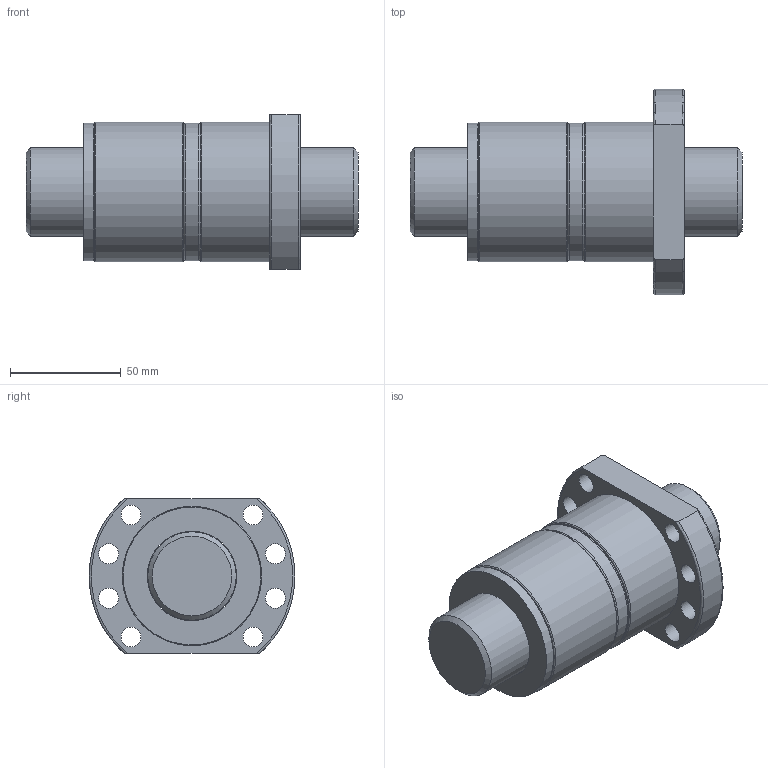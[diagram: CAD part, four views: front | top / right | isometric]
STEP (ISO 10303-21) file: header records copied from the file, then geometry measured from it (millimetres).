
FILE_DESCRIPTION(/* description */ (''),/* implementation_level */ '2;1');
FILE_NAME(/* name */ 'DFS4006',/* time_stamp */ '2007-10-26T13:48:15+08:00',/* author */ (''),/* organization */ (''),/* preprocessor_version */ 'ST-DEVELOPER v9',/* originating_system */ 'UGS - NX 3.0',/* authorisation */ '');
FILE_SCHEMA (('CONFIG_CONTROL_DESIGN'));
Length unit declared in the file: millimetre
Products named in the file (1): jaso15A4i32y
Bounding box: 150 x 93 x 70 mm (x, y, z)
Volume: 387758.7 mm3; surface area: 83803.1 mm2
Topology: 7 solids, 7 shells, 53 faces, 111 edges, 74 vertices
Faces by surface type: cylinder 24, plane 18, torus 9, cone 2
Full cylindrical faces by diameter (mm): 9 x8, 40 x1, 40.5 x3, 41.74 x2, 43 x1, 61 x1, 62 x1, 62.3 x2, 63 x3
Entity records: 1494 total; most frequent: CARTESIAN_POINT 340, DIRECTION 234, ORIENTED_EDGE 150, AXIS2_PLACEMENT_3D 113, EDGE_LOOP 112, FACE_BOUND 86, EDGE_CURVE 75, VERTEX_POINT 67
